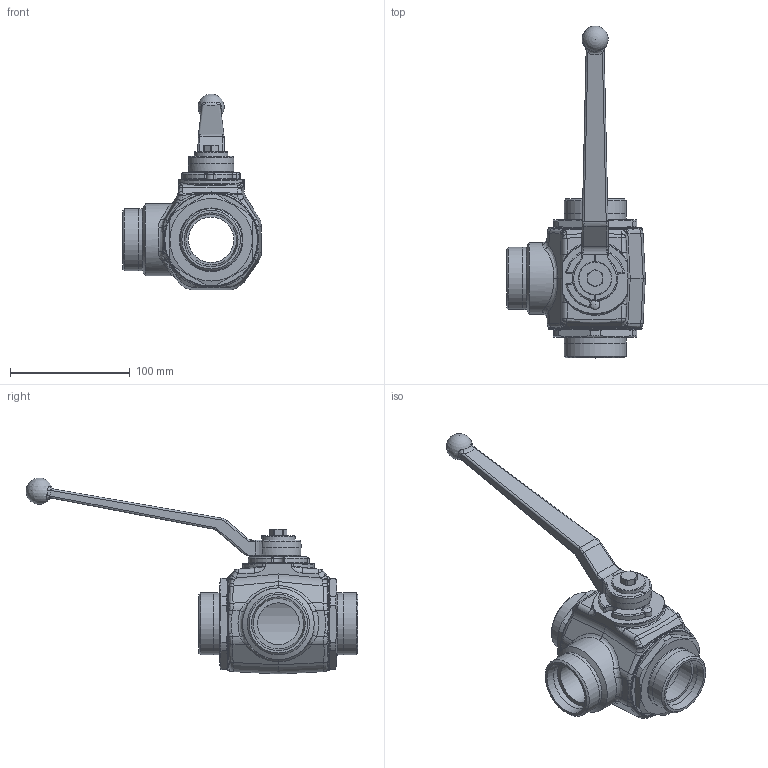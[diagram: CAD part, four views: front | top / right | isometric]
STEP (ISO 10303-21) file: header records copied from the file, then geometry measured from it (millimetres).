
FILE_DESCRIPTION( ( 'Unknown' ), '1' );
FILE_NAME( 'H:/PISTER/3D-MODELLE/SK3 stp/SK3 DN40 42L.stp', 'Unknown', ( 'Unknown' ), ( 'Unknown' ), 'PSStep 14.0', 'Unknown', ' ' );
FILE_SCHEMA( ( 'AUTOMOTIVE_DESIGN { 1 0 10303 214 1 1 1 1 }' ) );
Length unit declared in the file: millimetre
Products named in the file (10): Assem1; 56-032-048-oa9; 09-17-001; Griff_SW17_; 58-0440-003; 58-0933-163; 04-040-085-oa10; 04-040-085-oa11; 58-28740-01; 01-040-102-oa12
Assembly tree (9 placements, depth 2):
  Assem1
    56-032-048-oa9
    09-17-001
    Griff_SW17_
    58-0440-003
    58-0933-163
    04-040-085-oa10
    04-040-085-oa11
    58-28740-01
    01-040-102-oa12
Bounding box: 116 x 277.42 x 163.9 mm (x, y, z)
Volume: 268179 mm3; surface area: 112525.1 mm2
Topology: 9 solids, 9 shells, 494 faces, 1212 edges, 730 vertices
Faces by surface type: cylinder 140, plane 130, bspline 126, torus 45, cone 42, sphere 11
Full cylindrical faces by diameter (mm): 6.8 x1, 7.98 x1, 8 x1, 9.2 x1, 24 x2, 28 x1, 32 x1, 35 x1, 38 x2, 42.3 x1, 42.35 x2, 52 x7, 60 x1, 65.3 x2, 65.35 x2, 78.279 x1
Entity records: 25765 total; most frequent: CARTESIAN_POINT 11258, ORIENTED_EDGE 2220, DIRECTION 2038, EDGE_CURVE 1110, AXIS2_PLACEMENT_3D 860, VERTEX_POINT 701, EDGE_LOOP 578, FACE_OUTER_BOUND 532
